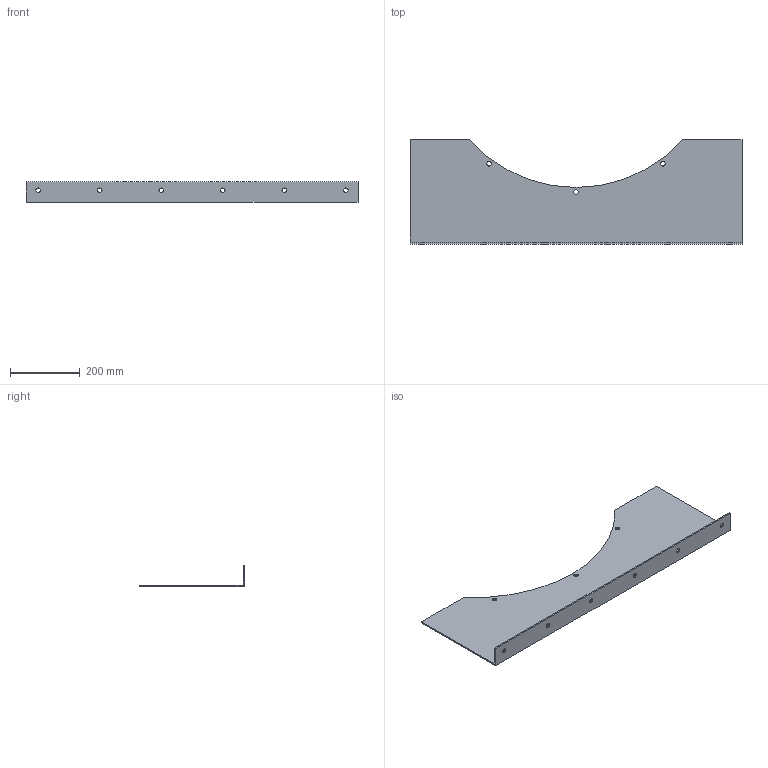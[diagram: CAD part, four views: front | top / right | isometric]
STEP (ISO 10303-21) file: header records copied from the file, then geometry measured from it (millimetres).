
FILE_DESCRIPTION(('STEP AP214'),'1');
FILE_NAME('accessory_5138806400.stp','2017-10-09T07:39:15',('TraceParts'),('TraceParts S.A.'),'Spatial InterOp 3D',' ',' ');
FILE_SCHEMA(('automotive_design'));
Length unit declared in the file: millimetre
Products named in the file (1): accessory_5138806400
Bounding box: 950 x 300 x 60 mm (x, y, z)
Volume: 1115790 mm3; surface area: 570128.4 mm2
Topology: 1 solids, 1 shells, 28 faces, 78 edges, 52 vertices
Faces by surface type: cylinder 19, plane 9
Entity records: 1196 total; most frequent: DIRECTION 174, CARTESIAN_POINT 159, ORIENTED_EDGE 156, EDGE_CURVE 78, AXIS2_PLACEMENT_3D 67, VERTEX_POINT 52, EDGE_LOOP 46, LINE 40
